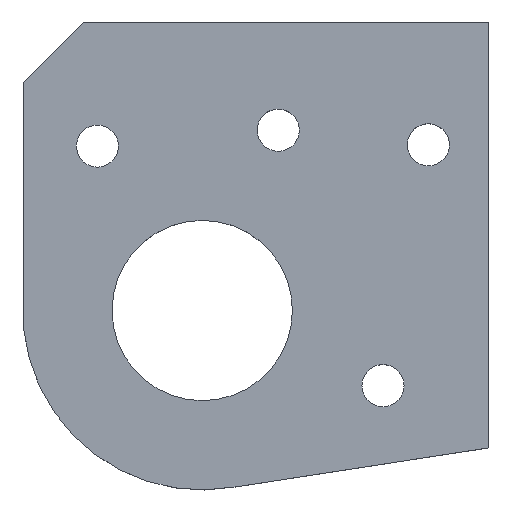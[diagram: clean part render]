
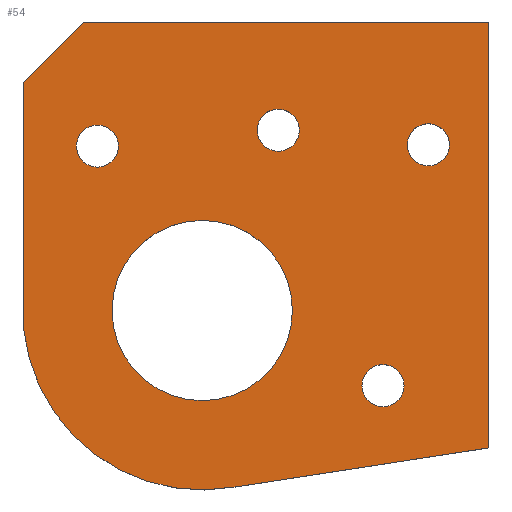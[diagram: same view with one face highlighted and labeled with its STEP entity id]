
A CAD part, top view. The second image highlights one B-rep face of the part: STEP entity #54.
In plain terms, the highlighted planar face has unit normal (0, 0, 1).
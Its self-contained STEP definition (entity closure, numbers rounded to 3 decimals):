
#54=ADVANCED_FACE('',(#81,#82,#83,#84,#85,#86),#87,.T.);
#81=FACE_BOUND('',#127,.T.);
#82=FACE_BOUND('',#128,.T.);
#83=FACE_BOUND('',#129,.T.);
#84=FACE_BOUND('',#130,.T.);
#85=FACE_BOUND('',#131,.T.);
#86=FACE_OUTER_BOUND('',#132,.T.);
#87=PLANE('',#133);
#127=EDGE_LOOP('',(#205));
#128=EDGE_LOOP('',(#206));
#129=EDGE_LOOP('',(#207));
#130=EDGE_LOOP('',(#208));
#131=EDGE_LOOP('',(#209));
#132=EDGE_LOOP('',(#210,#211,#212,#213,#214,#215));
#133=AXIS2_PLACEMENT_3D('',#216,#217,#218);
#205=ORIENTED_EDGE('',*,*,#265,.T.);
#206=ORIENTED_EDGE('',*,*,#285,.F.);
#207=ORIENTED_EDGE('',*,*,#286,.F.);
#208=ORIENTED_EDGE('',*,*,#287,.F.);
#209=ORIENTED_EDGE('',*,*,#280,.F.);
#210=ORIENTED_EDGE('',*,*,#288,.T.);
#211=ORIENTED_EDGE('',*,*,#274,.T.);
#212=ORIENTED_EDGE('',*,*,#289,.F.);
#213=ORIENTED_EDGE('',*,*,#283,.T.);
#214=ORIENTED_EDGE('',*,*,#269,.F.);
#215=ORIENTED_EDGE('',*,*,#273,.T.);
#216=CARTESIAN_POINT('',(0.0,0.0,12.5));
#217=DIRECTION('',(0.0,-0.0,1.0));
#218=DIRECTION('',(1.0,0.0,-0.0));
#265=EDGE_CURVE('',#299,#299,#300,.T.);
#269=EDGE_CURVE('',#306,#308,#309,.T.);
#273=EDGE_CURVE('',#306,#313,#315,.T.);
#274=EDGE_CURVE('',#316,#317,#318,.T.);
#280=EDGE_CURVE('',#327,#327,#328,.T.);
#283=EDGE_CURVE('',#333,#308,#334,.T.);
#285=EDGE_CURVE('',#336,#336,#337,.T.);
#286=EDGE_CURVE('',#338,#338,#339,.T.);
#287=EDGE_CURVE('',#340,#340,#341,.T.);
#288=EDGE_CURVE('',#313,#316,#342,.T.);
#289=EDGE_CURVE('',#333,#317,#343,.T.);
#299=VERTEX_POINT('',#356);
#300=CIRCLE('',#357,30.0);
#306=VERTEX_POINT('',#364);
#308=VERTEX_POINT('',#367);
#309=LINE('',#368,#369);
#313=VERTEX_POINT('',#375);
#315=LINE('',#378,#379);
#316=VERTEX_POINT('',#380);
#317=VERTEX_POINT('',#381);
#318=LINE('',#382,#383);
#327=VERTEX_POINT('',#396);
#328=CIRCLE('',#397,7.0);
#333=VERTEX_POINT('',#402);
#334=CIRCLE('',#403,59.7);
#336=VERTEX_POINT('',#406);
#337=CIRCLE('',#407,7.0);
#338=VERTEX_POINT('',#408);
#339=CIRCLE('',#409,7.0);
#340=VERTEX_POINT('',#410);
#341=CIRCLE('',#411,7.0);
#342=LINE('',#412,#413);
#343=LINE('',#414,#415);
#356=CARTESIAN_POINT('',(-30.0,0.0,12.5));
#357=AXIS2_PLACEMENT_3D('',#432,#433,#434);
#364=CARTESIAN_POINT('',(95.4,-45.7,12.5));
#367=CARTESIAN_POINT('',(10.579,-58.755,12.5));
#368=CARTESIAN_POINT('',(95.4,-45.7,12.5));
#369=VECTOR('',#440,1.0);
#375=CARTESIAN_POINT('',(95.4,96.0,12.5));
#378=CARTESIAN_POINT('',(95.4,-45.7,12.5));
#379=VECTOR('',#444,1.0);
#380=CARTESIAN_POINT('',(-39.6,96.0,12.5));
#381=CARTESIAN_POINT('',(-59.6,76.0,12.5));
#382=CARTESIAN_POINT('',(-67.8,67.8,12.5));
#383=VECTOR('',#445,1.0);
#396=CARTESIAN_POINT('',(32.3,60.0,12.5));
#397=AXIS2_PLACEMENT_3D('',#453,#454,#455);
#402=CARTESIAN_POINT('',(-59.6,3.454,12.5));
#403=AXIS2_PLACEMENT_3D('',#462,#463,#464);
#406=CARTESIAN_POINT('',(-27.85,54.7,12.5));
#407=AXIS2_PLACEMENT_3D('',#466,#467,#468);
#408=CARTESIAN_POINT('',(67.15,-25.0,12.5));
#409=AXIS2_PLACEMENT_3D('',#469,#470,#471);
#410=CARTESIAN_POINT('',(82.25,55.15,12.5));
#411=AXIS2_PLACEMENT_3D('',#472,#473,#474);
#412=CARTESIAN_POINT('',(95.4,96.0,12.5));
#413=VECTOR('',#475,1.0);
#414=CARTESIAN_POINT('',(-59.6,3.454,12.5));
#415=VECTOR('',#476,1.0);
#432=CARTESIAN_POINT('',(0.0,0.0,12.5));
#433=DIRECTION('',(-0.0,0.0,-1.0));
#434=DIRECTION('',(-1.0,0.0,0.0));
#440=DIRECTION('',(-0.988,-0.152,0.0));
#444=DIRECTION('',(0.,1.0,0.0));
#445=DIRECTION('',(-0.707,-0.707,0.0));
#453=CARTESIAN_POINT('',(25.3,60.0,12.5));
#454=DIRECTION('',(0.0,0.0,1.0));
#455=DIRECTION('',(1.0,0.0,0.0));
#462=CARTESIAN_POINT('',(0.0,0.0,12.5));
#463=DIRECTION('',(0.0,0.0,1.0));
#464=DIRECTION('',(-0.998,0.058,0.0));
#466=CARTESIAN_POINT('',(-34.85,54.7,12.5));
#467=DIRECTION('',(0.0,0.0,1.0));
#468=DIRECTION('',(1.0,0.0,0.0));
#469=CARTESIAN_POINT('',(60.15,-25.0,12.5));
#470=DIRECTION('',(0.0,0.0,1.0));
#471=DIRECTION('',(1.0,0.0,0.0));
#472=CARTESIAN_POINT('',(75.25,55.15,12.5));
#473=DIRECTION('',(0.0,0.0,1.0));
#474=DIRECTION('',(1.0,0.0,0.0));
#475=DIRECTION('',(-1.0,0.0,0.0));
#476=DIRECTION('',(0.,1.0,0.0));
